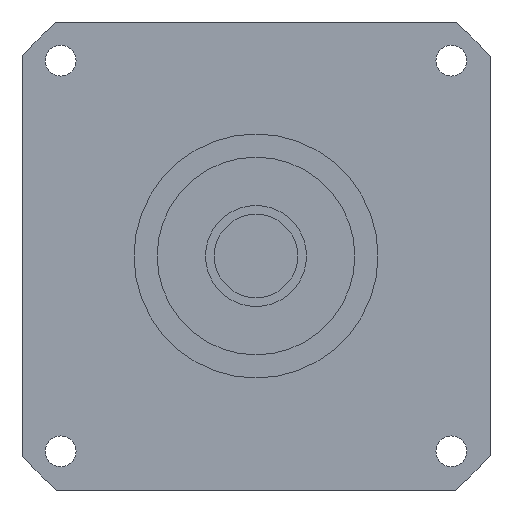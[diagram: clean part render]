
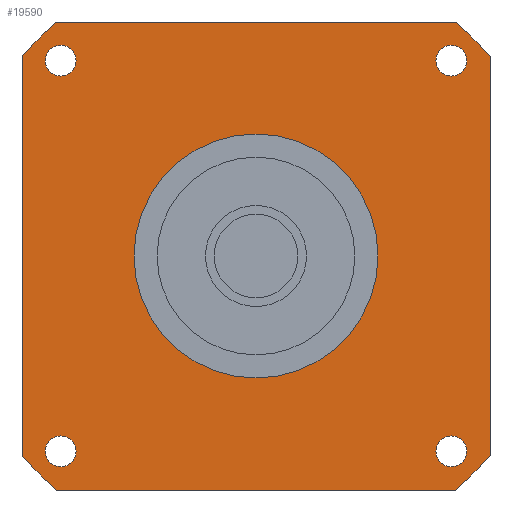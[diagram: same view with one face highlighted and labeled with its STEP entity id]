
A CAD part, left-side view. The second image highlights one B-rep face of the part: STEP entity #19590.
In plain terms, the highlighted planar face has unit normal (-1, 0, 0) as drawn and (0, 0, -1) by its records, which use the part's own axes.
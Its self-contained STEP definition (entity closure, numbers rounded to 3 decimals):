
#13870=CARTESIAN_POINT('',(53.25,45.436,-41.));
#13880=VERTEX_POINT('',#13870);
#13930=CARTESIAN_POINT('',(53.25,53.25,-41.));
#13940=DIRECTION('',(0.,-1.,0.));
#13950=VECTOR('',#13940,1000.);
#13960=LINE('',#13930,#13950);
#13970=CARTESIAN_POINT('',(53.25,-45.436,-41.));
#13980=VERTEX_POINT('',#13970);
#13990=EDGE_CURVE('',#13880,#13980,#13960,.T.);
#14270=CARTESIAN_POINT('',(-45.436,53.25,-41.));
#14280=VERTEX_POINT('',#14270);
#14460=CARTESIAN_POINT('',(-53.25,45.436,-41.));
#14470=VERTEX_POINT('',#14460);
#14500=CARTESIAN_POINT('',(0.,0.,-41.));
#14510=DIRECTION('',(0.,0.,-1.));
#14520=DIRECTION('',(1.,0.,0.));
#14530=AXIS2_PLACEMENT_3D('',#14500,#14510,#14520);
#14540=CIRCLE('',#14530,70.);
#14550=EDGE_CURVE('',#14470,#14280,#14540,.T.);
#18110=CARTESIAN_POINT('',(-40.949,44.449,-41.));
#18120=VERTEX_POINT('',#18110);
#18150=CARTESIAN_POINT('',(-44.449,44.449,-41.));
#18160=DIRECTION('',(0.,0.,-1.));
#18170=DIRECTION('',(-1.,0.,0.));
#18180=AXIS2_PLACEMENT_3D('',#18150,#18160,#18170);
#18190=CIRCLE('',#18180,3.5);
#18200=CARTESIAN_POINT('',(-47.949,44.449,-41.));
#18210=VERTEX_POINT('',#18200);
#18220=EDGE_CURVE('',#18210,#18120,#18190,.T.);
#18340=CARTESIAN_POINT('',(53.25,53.25,-41.));
#18350=DIRECTION('',(0.,0.,-1.));
#18360=DIRECTION('',(1.,0.,0.));
#18370=AXIS2_PLACEMENT_3D('',#18340,#18350,#18360);
#18380=PLANE('',#18370);
#18390=ORIENTED_EDGE('',*,*,#18220,.F.);
#18400=EDGE_CURVE('',#18120,#18210,#18190,.T.);
#18410=ORIENTED_EDGE('',*,*,#18400,.F.);
#18420=EDGE_LOOP('',(#18410,#18390));
#18430=FACE_BOUND('',#18420,.T.);
#18440=CARTESIAN_POINT('',(44.449,44.449,-41.));
#18450=DIRECTION('',(0.,0.,-1.));
#18460=DIRECTION('',(0.,1.,0.));
#18470=AXIS2_PLACEMENT_3D('',#18440,#18450,#18460);
#18480=CIRCLE('',#18470,3.5);
#18490=CARTESIAN_POINT('',(44.449,47.949,-41.));
#18500=VERTEX_POINT('',#18490);
#18510=CARTESIAN_POINT('',(44.449,40.949,-41.));
#18520=VERTEX_POINT('',#18510);
#18530=EDGE_CURVE('',#18500,#18520,#18480,.T.);
#18540=ORIENTED_EDGE('',*,*,#18530,.F.);
#18550=EDGE_CURVE('',#18520,#18500,#18480,.T.);
#18560=ORIENTED_EDGE('',*,*,#18550,.F.);
#18570=EDGE_LOOP('',(#18560,#18540));
#18580=FACE_BOUND('',#18570,.T.);
#18590=CARTESIAN_POINT('',(0.,0.,
-41.));
#18600=DIRECTION('',(0.,0.,1.));
#18610=DIRECTION('',(0.,1.,0.));
#18620=AXIS2_PLACEMENT_3D('',#18590,#18600,#18610);
#18630=CIRCLE('',#18620,27.76);
#18640=CARTESIAN_POINT('',(-27.76,0.,-41.));
#18650=VERTEX_POINT('',#18640);
#18660=CARTESIAN_POINT('',(27.76,0.,-41.));
#18670=VERTEX_POINT('',#18660);
#18680=EDGE_CURVE('',#18650,#18670,#18630,.T.);
#18690=ORIENTED_EDGE('',*,*,#18680,.T.);
#18700=CARTESIAN_POINT('',(0.,27.76,-41.));
#18710=VERTEX_POINT('',#18700);
#18720=EDGE_CURVE('',#18710,#18650,#18630,.T.);
#18730=ORIENTED_EDGE('',*,*,#18720,.T.);
#18740=EDGE_CURVE('',#18670,#18710,#18630,.T.);
#18750=ORIENTED_EDGE('',*,*,#18740,.T.);
#18760=EDGE_LOOP('',(#18750,#18730,#18690));
#18770=FACE_BOUND('',#18760,.T.);
#18780=CARTESIAN_POINT('',(44.449,-44.449,-41.));
#18790=DIRECTION('',(0.,0.,-1.));
#18800=DIRECTION('',(1.,0.,0.));
#18810=AXIS2_PLACEMENT_3D('',#18780,#18790,#18800);
#18820=CIRCLE('',#18810,3.5);
#18830=CARTESIAN_POINT('',(47.949,-44.449,-41.));
#18840=VERTEX_POINT('',#18830);
#18850=CARTESIAN_POINT('',(40.949,-44.449,-41.));
#18860=VERTEX_POINT('',#18850);
#18870=EDGE_CURVE('',#18840,#18860,#18820,.T.);
#18880=ORIENTED_EDGE('',*,*,#18870,.F.);
#18890=EDGE_CURVE('',#18860,#18840,#18820,.T.);
#18900=ORIENTED_EDGE('',*,*,#18890,.F.);
#18910=EDGE_LOOP('',(#18900,#18880));
#18920=FACE_BOUND('',#18910,.T.);
#18930=CARTESIAN_POINT('',(-44.449,-44.449,-41.));
#18940=DIRECTION('',(0.,0.,-1.));
#18950=DIRECTION('',(0.,-1.,0.));
#18960=AXIS2_PLACEMENT_3D('',#18930,#18940,#18950);
#18970=CIRCLE('',#18960,3.5);
#18980=CARTESIAN_POINT('',(-44.449,-47.949,-41.));
#18990=VERTEX_POINT('',#18980);
#19000=CARTESIAN_POINT('',(-44.449,-40.949,-41.));
#19010=VERTEX_POINT('',#19000);
#19020=EDGE_CURVE('',#18990,#19010,#18970,.T.);
#19030=ORIENTED_EDGE('',*,*,#19020,.F.);
#19040=EDGE_CURVE('',#19010,#18990,#18970,.T.);
#19050=ORIENTED_EDGE('',*,*,#19040,.F.);
#19060=EDGE_LOOP('',(#19050,#19030));
#19070=FACE_BOUND('',#19060,.T.);
#19080=CARTESIAN_POINT('',(-53.25,53.25,-41.));
#19090=DIRECTION('',(1.,0.,0.));
#19100=VECTOR('',#19090,1000.);
#19110=LINE('',#19080,#19100);
#19120=CARTESIAN_POINT('',(45.436,53.25,-41.));
#19130=VERTEX_POINT('',#19120);
#19140=EDGE_CURVE('',#14280,#19130,#19110,.T.);
#19150=ORIENTED_EDGE('',*,*,#19140,.T.);
#19160=ORIENTED_EDGE('',*,*,#14550,.T.);
#19170=CARTESIAN_POINT('',(-53.25,-53.25,-41.));
#19180=DIRECTION('',(0.,1.,0.));
#19190=VECTOR('',#19180,1000.);
#19200=LINE('',#19170,#19190);
#19210=CARTESIAN_POINT('',(-53.25,-45.436,-41.));
#19220=VERTEX_POINT('',#19210);
#19230=EDGE_CURVE('',#19220,#14470,#19200,.T.);
#19240=ORIENTED_EDGE('',*,*,#19230,.T.);
#19250=CARTESIAN_POINT('',(0.,0.,-41.));
#19260=DIRECTION('',(0.,0.,-1.));
#19270=DIRECTION('',(1.,0.,0.));
#19280=AXIS2_PLACEMENT_3D('',#19250,#19260,#19270);
#19290=CIRCLE('',#19280,70.);
#19300=CARTESIAN_POINT('',(-45.436,-53.25,-41.));
#19310=VERTEX_POINT('',#19300);
#19320=EDGE_CURVE('',#19310,#19220,#19290,.T.);
#19330=ORIENTED_EDGE('',*,*,#19320,.T.);
#19340=CARTESIAN_POINT('',(53.25,-53.25,-41.));
#19350=DIRECTION('',(-1.,0.,0.));
#19360=VECTOR('',#19350,1000.);
#19370=LINE('',#19340,#19360);
#19380=CARTESIAN_POINT('',(45.436,-53.25,-41.));
#19390=VERTEX_POINT('',#19380);
#19400=EDGE_CURVE('',#19390,#19310,#19370,.T.);
#19410=ORIENTED_EDGE('',*,*,#19400,.T.);
#19420=CARTESIAN_POINT('',(0.,0.,-41.));
#19430=DIRECTION('',(0.,0.,-1.));
#19440=DIRECTION('',(1.,0.,0.));
#19450=AXIS2_PLACEMENT_3D('',#19420,#19430,#19440);
#19460=CIRCLE('',#19450,70.);
#19470=EDGE_CURVE('',#13980,#19390,#19460,.T.);
#19480=ORIENTED_EDGE('',*,*,#19470,.T.);
#19490=ORIENTED_EDGE('',*,*,#13990,.T.);
#19500=CARTESIAN_POINT('',(0.,0.,-41.));
#19510=DIRECTION('',(0.,0.,-1.));
#19520=DIRECTION('',(1.,0.,0.));
#19530=AXIS2_PLACEMENT_3D('',#19500,#19510,#19520);
#19540=CIRCLE('',#19530,70.);
#19550=EDGE_CURVE('',#19130,#13880,#19540,.T.);
#19560=ORIENTED_EDGE('',*,*,#19550,.T.);
#19570=EDGE_LOOP('',(#19560,#19490,#19480,#19410,#19330,#19240,#19160,
#19150));
#19580=FACE_OUTER_BOUND('',#19570,.T.);
#19590=ADVANCED_FACE('',(#18430,#18580,#18770,#18920,#19070,#19580),
#18380,.T.);
